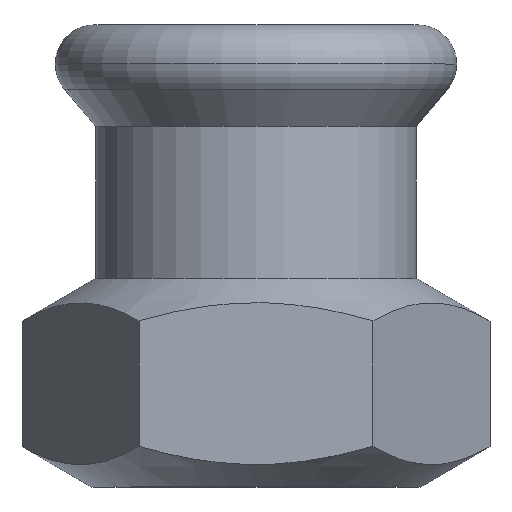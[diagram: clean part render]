
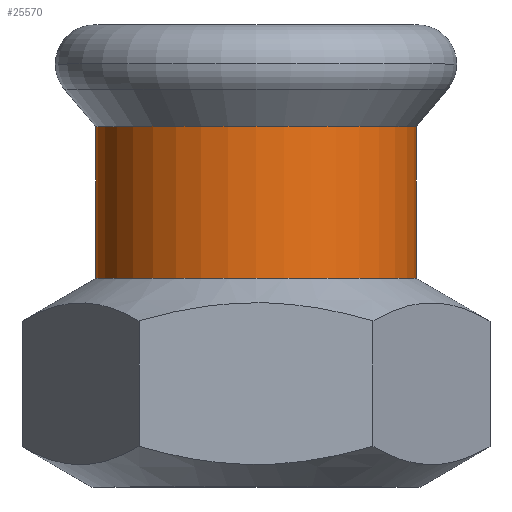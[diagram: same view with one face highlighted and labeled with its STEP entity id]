
A CAD part, top view. The second image highlights one B-rep face of the part: STEP entity #25570.
In plain terms, the highlighted cylindrical face has radius 12.65 mm (diameter 25.3 mm), a partial arc.
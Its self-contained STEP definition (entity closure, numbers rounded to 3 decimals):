
#520=CARTESIAN_POINT('',(286.084,41.58,
0.));
#530=VERTEX_POINT('',#520);
#3230=CARTESIAN_POINT('',(260.784,41.58,0.));
#3240=VERTEX_POINT('',#3230);
#3270=CARTESIAN_POINT('',(273.434,41.58,0.));
#3280=DIRECTION('',(0.,-1.,0.));
#3290=DIRECTION('',(-1.,0.,0.));
#3300=AXIS2_PLACEMENT_3D('',#3270,#3280,#3290);
#3310=CIRCLE('',#3300,12.65);
#3320=EDGE_CURVE('',#530,#3240,#3310,.T.);
#25260=CARTESIAN_POINT('',(273.434,46.815,0.));
#25270=DIRECTION('',(0.,-1.,0.));
#25280=DIRECTION('',(-1.,0.,0.));
#25290=AXIS2_PLACEMENT_3D('',#25260,#25270,#25280);
#25300=CYLINDRICAL_SURFACE('',#25290,12.65);
#25310=CARTESIAN_POINT('',(260.784,46.815,0.));
#25320=DIRECTION('',(0.,-1.,0.));
#25330=VECTOR('',#25320,1.);
#25340=LINE('',#25310,#25330);
#25350=CARTESIAN_POINT('',(260.784,53.567,0.));
#25360=VERTEX_POINT('',#25350);
#25370=EDGE_CURVE('',#25360,#3240,#25340,.T.);
#25380=ORIENTED_EDGE('',*,*,#25370,.T.);
#25390=CARTESIAN_POINT('',(273.434,53.567,0.));
#25400=DIRECTION('',(0.,1.,0.));
#25410=DIRECTION('',(-1.,0.,0.));
#25420=AXIS2_PLACEMENT_3D('',#25390,#25400,#25410);
#25430=CIRCLE('',#25420,12.65);
#25440=CARTESIAN_POINT('',(286.084,53.567,
0.));
#25450=VERTEX_POINT('',#25440);
#25460=EDGE_CURVE('',#25360,#25450,#25430,.T.);
#25470=ORIENTED_EDGE('',*,*,#25460,.F.);
#25480=CARTESIAN_POINT('',(286.084,46.815,
0.));
#25490=DIRECTION('',(0.,-1.,0.));
#25500=VECTOR('',#25490,1.);
#25510=LINE('',#25480,#25500);
#25520=EDGE_CURVE('',#25450,#530,#25510,.T.);
#25530=ORIENTED_EDGE('',*,*,#25520,.F.);
#25540=ORIENTED_EDGE('',*,*,#3320,.F.);
#25550=EDGE_LOOP('',(#25540,#25530,#25470,#25380));
#25560=FACE_OUTER_BOUND('',#25550,.T.);
#25570=ADVANCED_FACE('',(#25560),#25300,.T.);
